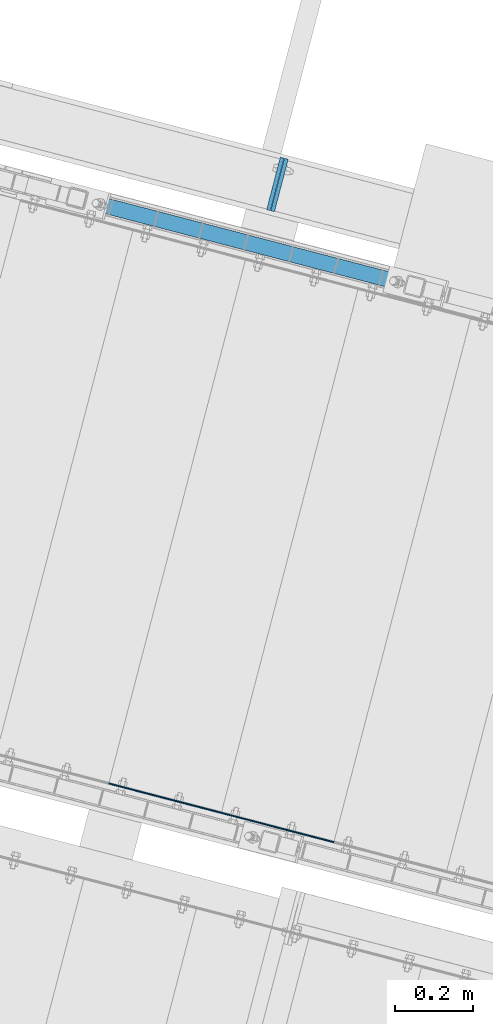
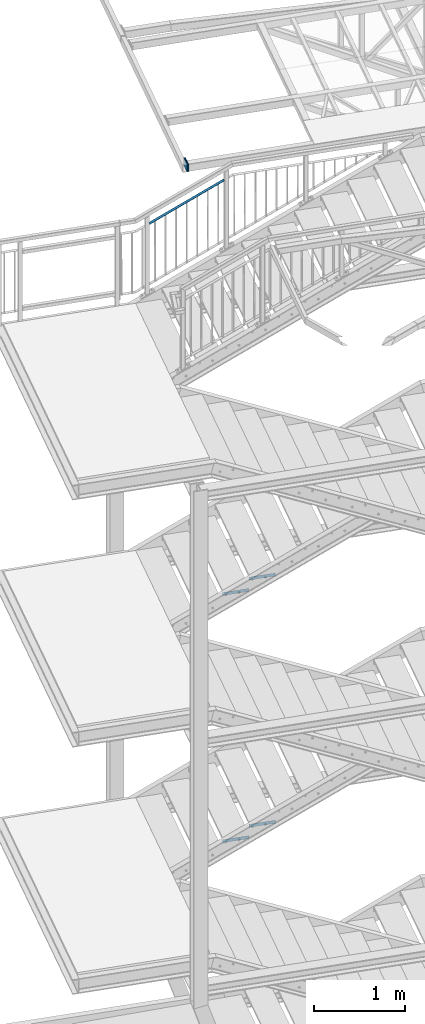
# One storey, part 74 of 169: 7 discrete accessories, 7 elements without a shape of their own.
"""IFC2X3 building model written with IfcOpenShell, lengths in millimetres."""

from ifc_helpers import new_model, si_unit, frame, origin_with_axes, origin_2d_with_axis, place, context, subcontext, project, spatial, polyline, rectangle, outline, extrude, clip, halfspace, material, type_object, element, aggregate, save


model = new_model("IFC2X3")

# Units and contexts
model_context = context("Model", 3, precision=1e-05, world=origin_with_axes())
body_context = subcontext(model_context, "Body", "Model", "MODEL_VIEW")
ifc_project = project(units=[si_unit("LENGTHUNIT", "METRE", prefix="MILLI"), si_unit("AREAUNIT", "SQUARE_METRE"), si_unit("VOLUMEUNIT", "CUBIC_METRE"), si_unit("MASSUNIT", "GRAM", prefix="KILO"), si_unit("TIMEUNIT", "SECOND"), si_unit("PLANEANGLEUNIT", "RADIAN"), si_unit("SOLIDANGLEUNIT", "STERADIAN"), si_unit("THERMODYNAMICTEMPERATUREUNIT", "DEGREE_CELSIUS"), si_unit("LUMINOUSINTENSITYUNIT", "LUMEN")], contexts=[model_context])

# Site, building, storey
site_placement = place(None, origin_with_axes())
site = spatial("IfcSite", under=ifc_project, at=site_placement, Name="Undefined", CompositionType="ELEMENT")
building_placement = place(site_placement, origin_with_axes())
building = spatial("IfcBuilding", under=site, at=building_placement, Name="Undefined", CompositionType="ELEMENT")
storey_placement = place(building_placement, origin_with_axes())
storey = spatial("IfcBuildingStorey", under=building, at=storey_placement, Name="Undefined", CompositionType="ELEMENT", Elevation=0.0)

# Assembly, discrete accessory
assembly_1_placement = place(storey_placement, origin_with_axes())
assembly_1 = element("IfcElementAssembly", 1, at=assembly_1_placement, inside=storey, Name="Steel Assembly", AssemblyPlace="NOTDEFINED", PredefinedType="RIGID_FRAME")
ifc_material_1 = material(Name="STEEL/S235")
discrete_accessory_type_1 = type_object("IfcDiscreteAccessoryType", Name="BLACHA")
discrete_accessory_1_placement = place(assembly_1_placement, frame((-26898.4501684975, 8802.35978836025, 14025.7151455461), z_axis=(0.967563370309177, -0.25262839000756, -0.000144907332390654), x_axis=(-0.000174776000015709, -9.57910000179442e-05, -0.999999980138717)))
discrete_accessory_1 = element("IfcDiscreteAccessory", 2, at=discrete_accessory_1_placement, type_object=discrete_accessory_type_1, material=ifc_material_1, Name="BLACHA", ObjectType="BL10*140", context=body_context, shape_type="SweptSolid", body=[
    extrude(outline(polyline([(100.000001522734, -70.0000000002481), (-1.4915713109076e-10, -69.9999999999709), (1.4915713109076e-10, 69.9999999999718), (100.000001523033, 69.9999999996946), (100.000001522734, -70.0000000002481)])), frame((-1.81898926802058e-12, -1.18000176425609e-16, -5.00000000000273), z_axis=(0.0, 0.0, 1.0), x_axis=(1.0, 0.0, 0.0)), (0.0, 0.0, 1.0), 10.0),
])
aggregate(assembly_1, [discrete_accessory_1])

assembly_2_placement = place(storey_placement, origin_with_axes())
assembly_2 = element("IfcElementAssembly", 3, at=assembly_2_placement, inside=storey, Name="Steel Assembly", AssemblyPlace="NOTDEFINED", PredefinedType="RIGID_FRAME")
discrete_accessory_2_placement = place(assembly_2_placement, frame((-26909.1018100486, 8805.1409050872, 14025.7139467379), z_axis=(0.967563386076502, -0.25262836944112, 2.96259202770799e-05), x_axis=(-5.90399999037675e-06, -0.000139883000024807, -0.999999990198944)))
discrete_accessory_2 = element("IfcDiscreteAccessory", 4, at=discrete_accessory_2_placement, type_object=discrete_accessory_type_1, material=ifc_material_1, Name="BLACHA", ObjectType="BL10*140", context=body_context, shape_type="SweptSolid", body=[
    extrude(outline(polyline([(100.000001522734, -70.0000000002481), (-1.4915713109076e-10, -69.9999999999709), (1.4915713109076e-10, 69.9999999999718), (100.000001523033, 69.9999999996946), (100.000001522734, -70.0000000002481)])), frame((-1.81898926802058e-12, -1.18000176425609e-16, -5.00000000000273), z_axis=(0.0, 0.0, 1.0), x_axis=(1.0, 0.0, 0.0)), (0.0, 0.0, 1.0), 10.0),
])
aggregate(assembly_2, [discrete_accessory_2])

assembly_3_placement = place(storey_placement, origin_with_axes())
assembly_3 = element("IfcElementAssembly", 5, at=assembly_3_placement, inside=storey, Name="Steel Assembly", AssemblyPlace="NOTDEFINED", PredefinedType="RIGID_FRAME")
discrete_accessory_type_2 = type_object("IfcDiscreteAccessoryType", Name="PORĘCZ")
discrete_accessory_3_placement = place(assembly_3_placement, frame((-26530.0240673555, 8535.60608466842, 13834.046257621), z_axis=(-0.252628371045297, -0.967563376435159, 0.000136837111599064), x_axis=(-0.8654304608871, 0.225898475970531, -0.447213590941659)))
discrete_accessory_3 = element("IfcDiscreteAccessory", 6, at=discrete_accessory_3_placement, type_object=discrete_accessory_type_2, material=ifc_material_1, Name="PORĘCZ", ObjectType="BL40*3", context=body_context, shape_type="Clipping", body=[
    clip(clip(extrude(rectangle(XDim=3.0, YDim=40.0, at=origin_2d_with_axis()), frame((1019.8269139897, 5.66117660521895e-14, 8.60393801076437e-13), z_axis=(-1.0, -3.46944695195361e-18, -1.38777878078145e-17), x_axis=(1.73472347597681e-18, -1.0, 0.0)), (0.0, 0.0, 1.0), 988.69), halfspace(frame((1006.23639287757, 11.1803398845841, 1000.00000000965), z_axis=(-0.89442719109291, 0.44721359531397, 3.67724048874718e-10), x_axis=(-0.44721359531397, -0.89442719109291, 6.42512531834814e-12)), True)), halfspace(frame((44.727161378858, -11.1803398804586, 999.999999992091), z_axis=(0.894427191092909, -0.447213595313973, -3.67723235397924e-10), x_axis=(0.447213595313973, 0.894427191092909, -6.42523900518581e-12)), True)),
])
aggregate(assembly_3, [discrete_accessory_3])

assembly_4_placement = place(storey_placement, origin_with_axes())
assembly_4 = element("IfcElementAssembly", 7, at=assembly_4_placement, inside=storey, Name="Steel Assembly", AssemblyPlace="NOTDEFINED", PredefinedType="RIGID_FRAME")
ifc_material_2 = material(Name="STEEL/S235JR")
discrete_accessory_type_3 = type_object("IfcDiscreteAccessoryType", Name="ANGLE")
discrete_accessory_4_placement = place(assembly_4_placement, frame((-26758.0734776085, 7107.83743532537, 9480.09581681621), z_axis=(0.252562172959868, 0.967580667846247, 0.0), x_axis=(-0.967580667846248, 0.252562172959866, 0.0)))
discrete_accessory_4 = element("IfcDiscreteAccessory", 8, at=discrete_accessory_4_placement, type_object=discrete_accessory_type_3, material=ifc_material_2, Name="ANGLE", ObjectType="3*40", context=body_context, shape_type="SweptSolid", body=[
    extrude(rectangle(XDim=40.0, YDim=3.0, at=origin_2d_with_axis()), frame((300.000000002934, 1.81898940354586e-12, -1.81898940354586e-12), z_axis=(-1.0, -3.46944695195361e-18, -1.38777878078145e-17), x_axis=(1.73472347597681e-18, -1.0, 0.0)), (0.0, 0.0, 1.0), 300.0),
])
aggregate(assembly_4, [discrete_accessory_4])

assembly_5_placement = place(storey_placement, origin_with_axes())
assembly_5 = element("IfcElementAssembly", 9, at=assembly_5_placement, inside=storey, Name="Steel Assembly", AssemblyPlace="NOTDEFINED", PredefinedType="RIGID_FRAME")
discrete_accessory_5_placement = place(assembly_5_placement, frame((-27048.3476813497, 7183.60608813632, 9330.0958168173), z_axis=(0.252562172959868, 0.967580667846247, 0.0), x_axis=(-0.967580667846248, 0.252562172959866, 0.0)))
discrete_accessory_5 = element("IfcDiscreteAccessory", 10, at=discrete_accessory_5_placement, type_object=discrete_accessory_type_3, material=ifc_material_2, Name="ANGLE", ObjectType="3*40", context=body_context, shape_type="SweptSolid", body=[
    extrude(rectangle(XDim=40.0, YDim=3.0, at=origin_2d_with_axis()), frame((300.000000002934, 1.81898940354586e-12, -1.81898940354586e-12), z_axis=(-1.0, -3.46944695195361e-18, -1.38777878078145e-17), x_axis=(1.73472347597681e-18, -1.0, 0.0)), (0.0, 0.0, 1.0), 300.0),
])
aggregate(assembly_5, [discrete_accessory_5])

assembly_6_placement = place(storey_placement, origin_with_axes())
assembly_6 = element("IfcElementAssembly", 11, at=assembly_6_placement, inside=storey, Name="Steel Assembly", AssemblyPlace="NOTDEFINED", PredefinedType="RIGID_FRAME")
discrete_accessory_6_placement = place(assembly_6_placement, frame((-26758.1875550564, 7107.40052038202, 6180.09584768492), z_axis=(0.252562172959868, 0.967580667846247, 0.0), x_axis=(-0.967580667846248, 0.252562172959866, 0.0)))
discrete_accessory_6 = element("IfcDiscreteAccessory", 12, at=discrete_accessory_6_placement, type_object=discrete_accessory_type_3, material=ifc_material_2, Name="ANGLE", ObjectType="3*40", context=body_context, shape_type="SweptSolid", body=[
    extrude(rectangle(XDim=40.0, YDim=3.0, at=origin_2d_with_axis()), frame((300.000000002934, 1.81898940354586e-12, -1.81898940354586e-12), z_axis=(-1.0, -3.46944695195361e-18, -1.38777878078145e-17), x_axis=(1.73472347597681e-18, -1.0, 0.0)), (0.0, 0.0, 1.0), 300.0),
])
aggregate(assembly_6, [discrete_accessory_6])

assembly_7_placement = place(storey_placement, origin_with_axes())
assembly_7 = element("IfcElementAssembly", 13, at=assembly_7_placement, inside=storey, Name="Steel Assembly", AssemblyPlace="NOTDEFINED", PredefinedType="RIGID_FRAME")
discrete_accessory_7_placement = place(assembly_7_placement, frame((-27048.4617587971, 7183.16917319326, 6030.09584768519), z_axis=(0.252562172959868, 0.967580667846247, 0.0), x_axis=(-0.967580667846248, 0.252562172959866, 0.0)))
discrete_accessory_7 = element("IfcDiscreteAccessory", 14, at=discrete_accessory_7_placement, type_object=discrete_accessory_type_3, material=ifc_material_2, Name="ANGLE", ObjectType="3*40", context=body_context, shape_type="SweptSolid", body=[
    extrude(rectangle(XDim=40.0, YDim=3.0, at=origin_2d_with_axis()), frame((300.000000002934, 1.81898940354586e-12, -1.81898940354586e-12), z_axis=(-1.0, -3.46944695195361e-18, -1.38777878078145e-17), x_axis=(1.73472347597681e-18, -1.0, 0.0)), (0.0, 0.0, 1.0), 300.0),
])
aggregate(assembly_7, [discrete_accessory_7])

save(model, "model.ifc")
